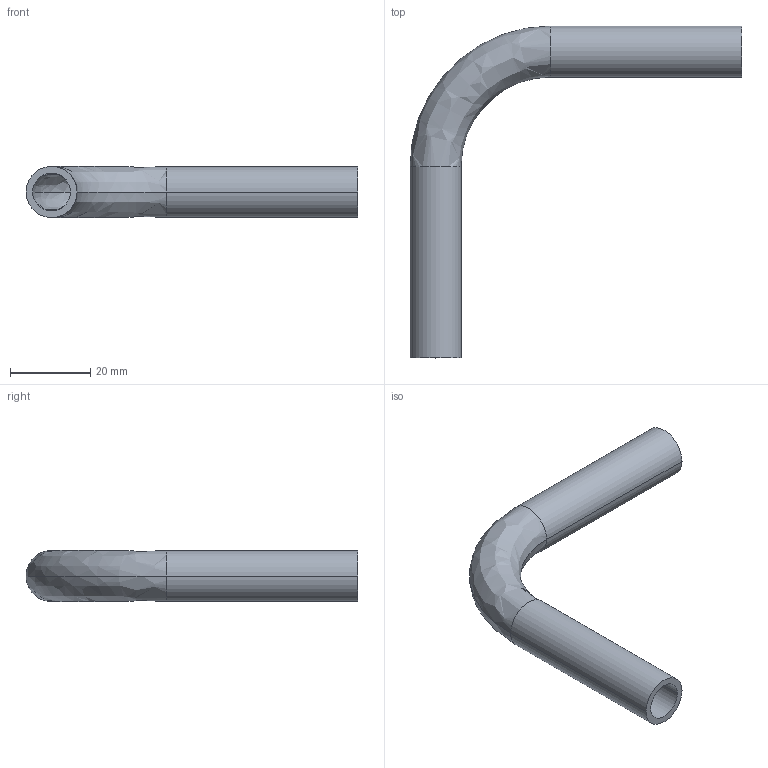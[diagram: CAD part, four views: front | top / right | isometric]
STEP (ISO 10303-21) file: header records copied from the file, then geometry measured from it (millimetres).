
FILE_DESCRIPTION (( 'STEP AP214' ), '1' );
FILE_NAME ('TE2S6L.5-...STEP', '2016-05-22T09:45:04', ( 'eran' ), ( '' ), 'SwSTEP 2.0', 'SolidWorks 2016', '' );
FILE_SCHEMA (( 'AUTOMOTIVE_DESIGN' ));
Length unit declared in the file: millimetre
Products named in the file (1): TE2S6L.5-..
Bounding box: 82.55 x 82.55 x 12.7 mm (x, y, z)
Volume: 8026.2 mm3; surface area: 9843.3 mm2
Topology: 1 solids, 1 shells, 14 faces, 28 edges, 16 vertices
Faces by surface type: cylinder 8, bspline 4, plane 2
Entity records: 450 total; most frequent: CARTESIAN_POINT 119, DIRECTION 70, ORIENTED_EDGE 56, AXIS2_PLACEMENT_3D 31, EDGE_CURVE 28, CIRCLE 20, VERTEX_POINT 16, EDGE_LOOP 16
